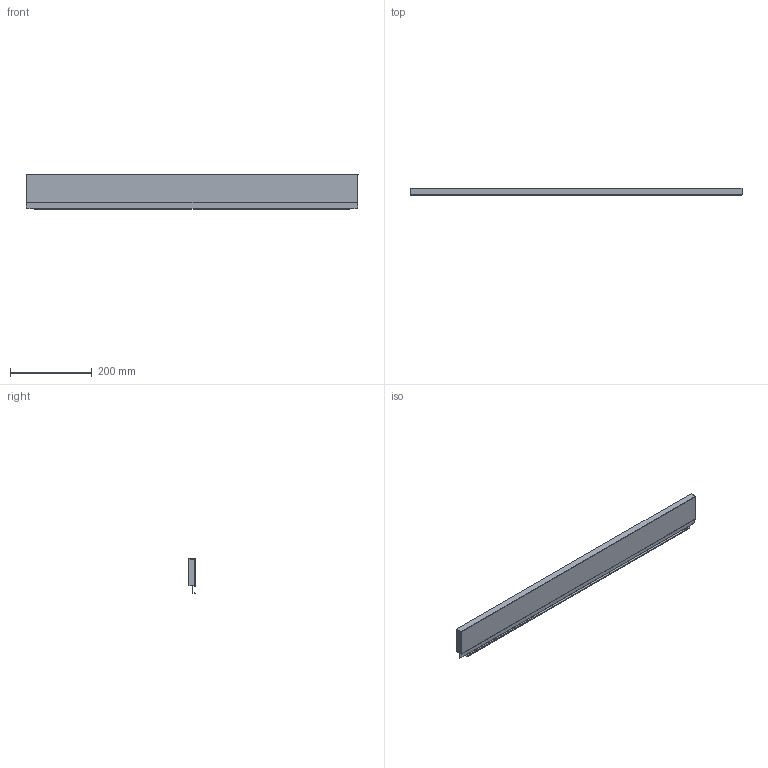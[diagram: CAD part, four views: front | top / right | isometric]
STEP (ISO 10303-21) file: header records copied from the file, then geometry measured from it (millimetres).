
FILE_DESCRIPTION (( 'STEP AP214' ), '1' );
FILE_NAME ('_STRW_H90_KAB_900.step', '2010-08-24T14:40:18', ( 'grass' ), ( '' ), 'SwSTEP 2.0', 'SolidWorks 2009', '' );
FILE_SCHEMA (( 'AUTOMOTIVE_DESIGN' ));
Length unit declared in the file: millimetre
Products named in the file (1): _STRW_H90_KAB_900
Bounding box: 810 x 17 x 85.14 mm (x, y, z)
Volume: 74353.8 mm3; surface area: 187438.4 mm2
Topology: 1 solids, 1 shells, 76 faces, 214 edges, 140 vertices
Faces by surface type: plane 54, cylinder 22
Entity records: 2472 total; most frequent: CARTESIAN_POINT 431, ORIENTED_EDGE 428, DIRECTION 412, EDGE_CURVE 214, LINE 170, VECTOR 170, VERTEX_POINT 140, AXIS2_PLACEMENT_3D 121
